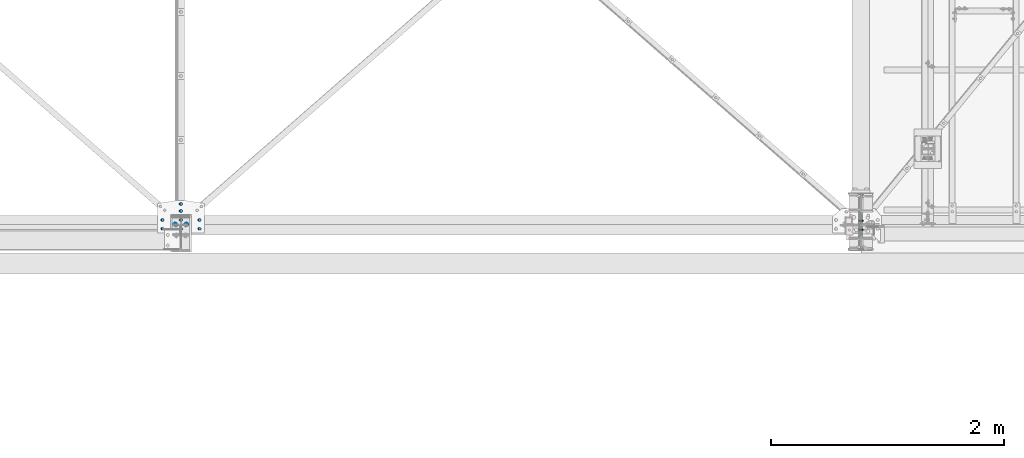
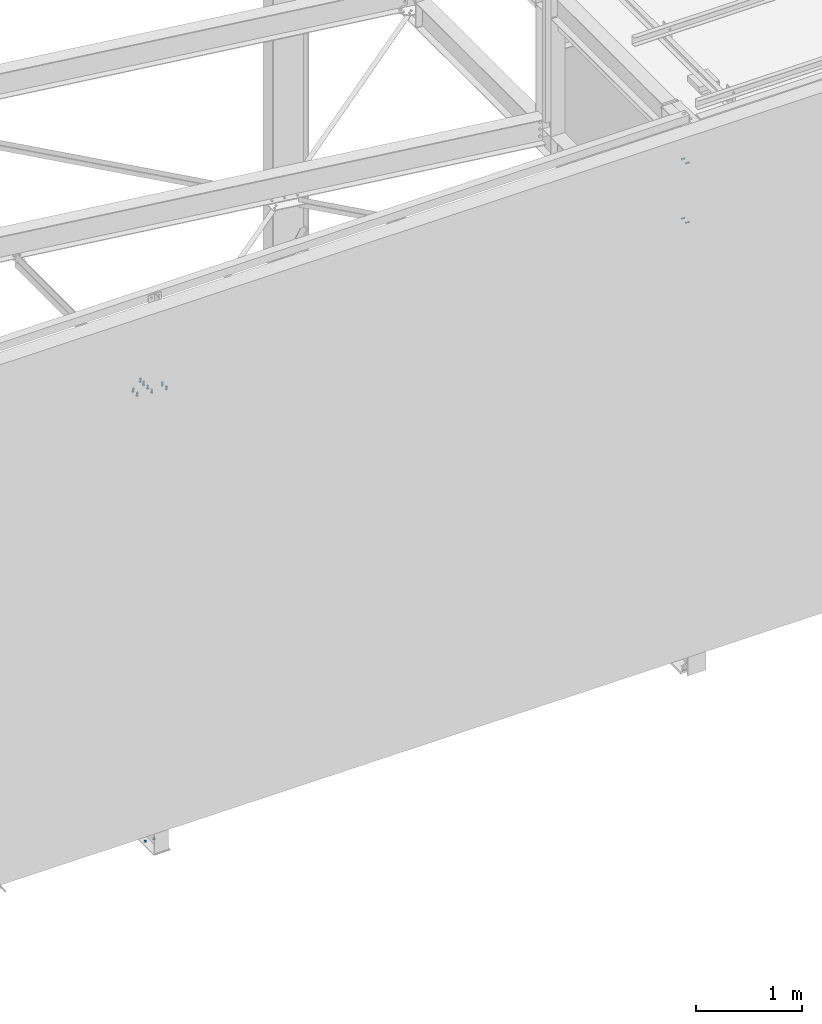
# One storey, part 298 of 3134: 5 mechanical fasteners, 4 elements without a shape of their own.
"""IFC2X3 building model written with IfcOpenShell, lengths in millimetres."""

from ifc_helpers import new_model, si_unit, frame, origin_with_axes, place, context, subcontext, project, spatial, faceted_brep, source, transform, mapped, material, type_object, element, aggregate, save


model = new_model("IFC2X3")

# Units and contexts
model_context = context("Model", 3, precision=1e-05, world=origin_with_axes())
body_context = subcontext(model_context, "Body", "Model", "MODEL_VIEW")
ifc_project = project(units=[si_unit("LENGTHUNIT", "METRE", prefix="MILLI"), si_unit("AREAUNIT", "SQUARE_METRE"), si_unit("VOLUMEUNIT", "CUBIC_METRE"), si_unit("MASSUNIT", "GRAM", prefix="KILO"), si_unit("TIMEUNIT", "SECOND"), si_unit("PLANEANGLEUNIT", "RADIAN"), si_unit("SOLIDANGLEUNIT", "STERADIAN"), si_unit("THERMODYNAMICTEMPERATUREUNIT", "DEGREE_CELSIUS"), si_unit("LUMINOUSINTENSITYUNIT", "LUMEN")], contexts=[model_context])

# Site, building, storey
site_placement = place(None, origin_with_axes())
site = spatial("IfcSite", under=ifc_project, at=site_placement, CompositionType="ELEMENT")
building_placement = place(site_placement, origin_with_axes())
building = spatial("IfcBuilding", under=site, at=building_placement, Name="Undefined", CompositionType="ELEMENT")
storey_placement = place(building_placement, origin_with_axes())
storey = spatial("IfcBuildingStorey", under=building, at=storey_placement, Name="Undefined", CompositionType="ELEMENT", Elevation=0.0)

# Assembly, mechanical fastener
assembly_1_placement = place(storey_placement, origin_with_axes())
assembly_1 = element("IfcElementAssembly", 1, at=assembly_1_placement, inside=storey, AssemblyPlace="NOTDEFINED", PredefinedType="RIGID_FRAME")
ifc_material = material(Name="8.8")
mechanical_fastener_type = type_object("IfcMechanicalFastenerType", Name="Bolt assembly")
shared_shape_1 = source(origin_with_axes(), body_context, "Body", "Brep", [
    faceted_brep([(13.856406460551, -16.9990000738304, 0.0), (6.92820323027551, -16.9990000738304, 12.0), (-6.92820323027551, -16.9990000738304, 12.0), (-13.856406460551, -16.9990000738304, 1.69692038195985e-15), (-6.92820323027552, -16.9990000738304, -12.0), (6.9282032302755, -16.9990000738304, -12.0), (6.9282032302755, -6.99900007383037, -12.0), (-6.92820323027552, -6.99900007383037, -12.0), (-13.856406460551, -6.99900007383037, 1.69692038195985e-15), (-6.92820323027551, -6.99900007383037, 12.0), (6.92820323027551, -6.99900007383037, 12.0), (13.856406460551, -6.99900007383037, 0.0), (8.0, -6.99900007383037, 0.0), (6.92820323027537, -6.99900007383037, 4.00000000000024), (3.99999999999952, -6.99900007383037, 6.92820323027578), (-8.29068785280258e-13, -6.99900007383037, 8.0), (-4.00000000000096, -6.99900007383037, 6.92820323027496), (-6.9282032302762, -6.99900007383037, 3.99999999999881), (-8.0, -6.99900007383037, -1.65813757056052e-12), (-6.92820323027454, -6.99900007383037, -4.00000000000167), (-3.99999999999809, -6.99900007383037, -6.92820323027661), (2.47832457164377e-12, -6.99900007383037, -8.0), (4.00000000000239, -6.99900007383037, -6.92820323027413), (6.92820323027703, -6.99900007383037, -3.99999999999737), (6.92820323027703, 33.0009999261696, -3.99999999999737), (4.00000000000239, 33.0009999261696, -6.92820323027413), (2.47832457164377e-12, 33.0009999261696, -8.0), (-3.99999999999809, 33.0009999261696, -6.92820323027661), (-6.92820323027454, 33.0009999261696, -4.00000000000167), (-8.0, 33.0009999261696, -1.65813757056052e-12), (-6.9282032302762, 33.0009999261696, 3.99999999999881), (-4.00000000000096, 33.0009999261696, 6.92820323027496), (-8.29068785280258e-13, 33.0009999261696, 8.0), (3.99999999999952, 33.0009999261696, 6.92820323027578), (6.92820323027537, 33.0009999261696, 4.00000000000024), (8.0, 33.0009999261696, 0.0), (13.856406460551, 14.9990000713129, 0.0), (6.92820323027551, 14.9990000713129, 12.0), (-6.92820323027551, 14.9990000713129, 12.0), (-13.856406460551, 14.9990000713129, 1.69692038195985e-15), (-6.92820323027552, 14.9990000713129, -12.0), (6.9282032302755, 14.9990000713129, -12.0), (6.9282032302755, 27.9990000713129, -12.0), (-6.92820323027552, 27.9990000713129, -12.0), (-13.856406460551, 27.9990000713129, 1.69692038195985e-15), (-6.92820323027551, 27.9990000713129, 12.0), (6.92820323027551, 27.9990000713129, 12.0), (13.856406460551, 27.9990000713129, 0.0)], [[[0, 1, 2, 3, 4, 5]], [[6, 7, 8, 9, 10, 11]], [[0, 11, 10, 1]], [[1, 10, 9, 2]], [[2, 9, 8, 3]], [[3, 8, 7, 4]], [[4, 7, 6, 5]], [[5, 6, 11, 0]], [[12, 13, 14, 15, 16, 17, 18, 19, 20, 21, 22, 23]], [[24, 25, 26, 27, 28, 29, 30, 31, 32, 33, 34, 35]], [[12, 35, 34, 13]], [[13, 34, 33, 14]], [[14, 33, 32, 15]], [[15, 32, 31, 16]], [[16, 31, 30, 17]], [[17, 30, 29, 18]], [[18, 29, 28, 19]], [[19, 28, 27, 20]], [[20, 27, 26, 21]], [[21, 26, 25, 22]], [[22, 25, 24, 23]], [[23, 24, 35, 12]], [[36, 37, 38, 39, 40, 41]], [[42, 43, 44, 45, 46, 47]], [[36, 47, 46, 37]], [[37, 46, 45, 38]], [[38, 45, 44, 39]], [[39, 44, 43, 40]], [[40, 43, 42, 41]], [[41, 42, 47, 36]]]),
    faceted_brep([(9.0, -3.46568413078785e-07, 0.0), (7.79422863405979, -3.46568413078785e-07, 4.50000000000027), (4.49999999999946, -3.46568413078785e-07, 7.79422863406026), (-9.3270238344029e-13, -3.46568413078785e-07, 9.0), (-4.50000000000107, -3.46568413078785e-07, 7.79422863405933), (-7.79422863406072, -3.46568413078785e-07, 4.49999999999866), (-9.0, -3.46568413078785e-07, -1.86540476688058e-12), (-7.79422863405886, -3.46568413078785e-07, -4.50000000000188), (-4.49999999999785, -3.46568413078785e-07, -7.79422863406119), (2.78811514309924e-12, -3.46568413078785e-07, -9.0), (4.50000000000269, -3.46568413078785e-07, -7.7942286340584), (7.79422863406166, -3.46568413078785e-07, -4.49999999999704), (7.79422863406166, 8.00000000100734, -4.49999999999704), (4.50000000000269, 8.00000000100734, -7.7942286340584), (2.78811514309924e-12, 8.00000000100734, -9.0), (-4.49999999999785, 8.00000000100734, -7.79422863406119), (-7.79422863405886, 8.00000000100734, -4.50000000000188), (-9.0, 8.00000000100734, -1.86540476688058e-12), (-7.79422863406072, 8.00000000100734, 4.49999999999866), (-4.50000000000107, 8.00000000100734, 7.79422863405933), (-9.3270238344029e-13, 8.00000000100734, 9.0), (4.49999999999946, 8.00000000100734, 7.79422863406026), (7.79422863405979, 8.00000000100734, 4.50000000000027), (9.0, 8.00000000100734, 0.0), (9.0, -6.89900007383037, 0.0), (7.79422863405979, -6.89900007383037, 4.50000000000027), (4.49999999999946, -6.89900007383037, 7.79422863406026), (-9.3270238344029e-13, -6.89900007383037, 9.0), (-4.50000000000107, -6.89900007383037, 7.79422863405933), (-7.79422863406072, -6.89900007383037, 4.49999999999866), (-9.0, -6.89900007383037, -1.86540476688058e-12), (-7.79422863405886, -6.89900007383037, -4.50000000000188), (-4.49999999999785, -6.89900007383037, -7.79422863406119), (2.78811514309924e-12, -6.89900007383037, -9.0), (4.50000000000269, -6.89900007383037, -7.7942286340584), (7.79422863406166, -6.89900007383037, -4.49999999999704), (7.79422863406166, 0.100999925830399, -4.49999999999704), (4.50000000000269, 0.100999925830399, -7.7942286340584), (2.78811514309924e-12, 0.100999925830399, -9.0), (-4.49999999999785, 0.100999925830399, -7.79422863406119), (-7.79422863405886, 0.100999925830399, -4.50000000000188), (-9.0, 0.100999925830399, -1.86540476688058e-12), (-7.79422863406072, 0.100999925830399, 4.49999999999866), (-4.50000000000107, 0.100999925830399, 7.79422863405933), (-9.3270238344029e-13, 0.100999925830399, 9.0), (4.49999999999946, 0.100999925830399, 7.79422863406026), (7.79422863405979, 0.100999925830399, 4.50000000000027), (9.0, 0.100999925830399, 0.0), (9.0, 7.89900007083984, 0.0), (7.79422863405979, 7.89900007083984, 4.50000000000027), (4.49999999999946, 7.89900007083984, 7.79422863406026), (-9.3270238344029e-13, 7.89900007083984, 9.0), (-4.50000000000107, 7.89900007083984, 7.79422863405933), (-7.79422863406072, 7.89900007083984, 4.49999999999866), (-9.0, 7.89900007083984, -1.86540476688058e-12), (-7.79422863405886, 7.89900007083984, -4.50000000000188), (-4.49999999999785, 7.89900007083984, -7.79422863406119), (2.78811514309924e-12, 7.89900007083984, -9.0), (4.50000000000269, 7.89900007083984, -7.7942286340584), (7.79422863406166, 7.89900007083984, -4.49999999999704), (7.79422863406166, 14.9990000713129, -4.49999999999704), (4.50000000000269, 14.9990000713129, -7.7942286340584), (2.78811514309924e-12, 14.9990000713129, -9.0), (-4.49999999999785, 14.9990000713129, -7.79422863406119), (-7.79422863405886, 14.9990000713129, -4.50000000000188), (-9.0, 14.9990000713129, -1.86540476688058e-12), (-7.79422863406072, 14.9990000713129, 4.49999999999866), (-4.50000000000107, 14.9990000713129, 7.79422863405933), (-9.3270238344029e-13, 14.9990000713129, 9.0), (4.49999999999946, 14.9990000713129, 7.79422863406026), (7.79422863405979, 14.9990000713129, 4.50000000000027), (9.0, 14.9990000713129, 0.0)], [[[0, 1, 2, 3, 4, 5, 6, 7, 8, 9, 10, 11]], [[12, 13, 14, 15, 16, 17, 18, 19, 20, 21, 22, 23]], [[0, 23, 22, 1]], [[1, 22, 21, 2]], [[2, 21, 20, 3]], [[3, 20, 19, 4]], [[4, 19, 18, 5]], [[5, 18, 17, 6]], [[6, 17, 16, 7]], [[7, 16, 15, 8]], [[8, 15, 14, 9]], [[9, 14, 13, 10]], [[10, 13, 12, 11]], [[11, 12, 23, 0]], [[24, 25, 26, 27, 28, 29, 30, 31, 32, 33, 34, 35]], [[36, 37, 38, 39, 40, 41, 42, 43, 44, 45, 46, 47]], [[24, 47, 46, 25]], [[25, 46, 45, 26]], [[26, 45, 44, 27]], [[27, 44, 43, 28]], [[28, 43, 42, 29]], [[29, 42, 41, 30]], [[30, 41, 40, 31]], [[31, 40, 39, 32]], [[32, 39, 38, 33]], [[33, 38, 37, 34]], [[34, 37, 36, 35]], [[35, 36, 47, 24]], [[48, 49, 50, 51, 52, 53, 54, 55, 56, 57, 58, 59]], [[60, 61, 62, 63, 64, 65, 66, 67, 68, 69, 70, 71]], [[48, 71, 70, 49]], [[49, 70, 69, 50]], [[50, 69, 68, 51]], [[51, 68, 67, 52]], [[52, 67, 66, 53]], [[53, 66, 65, 54]], [[54, 65, 64, 55]], [[55, 64, 63, 56]], [[56, 63, 62, 57]], [[57, 62, 61, 58]], [[58, 61, 60, 59]], [[59, 60, 71, 48]]]),
])
mechanical_fastener_1_placement = place(assembly_1_placement, frame((61712.9827951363, 115.000000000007, 4806.73385378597), z_axis=(-0.992623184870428, 0.0, 0.121240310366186), x_axis=(0.0, 1.0, 0.0)))
mechanical_fastener_1 = element("IfcMechanicalFastener", 2, at=mechanical_fastener_1_placement, type_object=mechanical_fastener_type, material=ifc_material, Name="Bolt assembly", NominalDiameter=16.0, NominalLength=40.0, context=body_context, shape_type="MappedRepresentation", body=[
    mapped(shared_shape_1, transform((0.0, 0.0, 0.0))),
    mapped(shared_shape_1, transform((59.9999999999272, 0.0, 5.40239852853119e-10))),
])
aggregate(assembly_1, [mechanical_fastener_1])

assembly_2_placement = place(storey_placement, origin_with_axes())
assembly_2 = element("IfcElementAssembly", 3, at=assembly_2_placement, inside=storey, Name="300", AssemblyPlace="NOTDEFINED", PredefinedType="RIGID_FRAME")
shared_shape_2 = source(origin_with_axes(), body_context, "Body", "Brep", [
    faceted_brep([(13.856406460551, -19.199990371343, 0.0), (6.92820323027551, -19.199990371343, 12.0), (-6.92820323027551, -19.199990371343, 12.0), (-13.856406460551, -19.199990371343, 1.69692038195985e-15), (-6.92820323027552, -19.199990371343, -12.0), (6.9282032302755, -19.199990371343, -12.0), (6.9282032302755, -9.19999037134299, -12.0), (-6.92820323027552, -9.19999037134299, -12.0), (-13.856406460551, -9.19999037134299, 1.69692038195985e-15), (-6.92820323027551, -9.19999037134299, 12.0), (6.92820323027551, -9.19999037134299, 12.0), (13.856406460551, -9.19999037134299, 0.0), (8.0, -9.19999037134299, 0.0), (6.92820323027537, -9.19999037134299, 4.00000000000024), (3.99999999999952, -9.19999037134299, 6.92820323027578), (-8.29068785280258e-13, -9.19999037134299, 8.0), (-4.00000000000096, -9.19999037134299, 6.92820323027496), (-6.9282032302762, -9.19999037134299, 3.99999999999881), (-8.0, -9.19999037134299, -1.65813757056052e-12), (-6.92820323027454, -9.19999037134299, -4.00000000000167), (-3.99999999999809, -9.19999037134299, -6.92820323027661), (2.47832457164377e-12, -9.19999037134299, -8.0), (4.00000000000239, -9.19999037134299, -6.92820323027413), (6.92820323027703, -9.19999037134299, -3.99999999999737), (6.92820323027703, 25.800009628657, -3.99999999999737), (4.00000000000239, 25.800009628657, -6.92820323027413), (2.47832457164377e-12, 25.800009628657, -8.0), (-3.99999999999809, 25.800009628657, -6.92820323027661), (-6.92820323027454, 25.800009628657, -4.00000000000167), (-8.0, 25.800009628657, -1.65813757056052e-12), (-6.9282032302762, 25.800009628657, 3.99999999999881), (-4.00000000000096, 25.800009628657, 6.92820323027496), (-8.29068785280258e-13, 25.800009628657, 8.0), (3.99999999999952, 25.800009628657, 6.92820323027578), (6.92820323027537, 25.800009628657, 4.00000000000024), (8.0, 25.800009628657, 0.0), (13.856406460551, 8.00000637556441, 0.0), (6.92820323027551, 8.00000637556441, 12.0), (-6.92820323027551, 8.00000637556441, 12.0), (-13.856406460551, 8.00000637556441, 1.69692038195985e-15), (-6.92820323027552, 8.00000637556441, -12.0), (6.9282032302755, 8.00000637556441, -12.0), (6.9282032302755, 21.0000063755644, -12.0), (-6.92820323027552, 21.0000063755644, -12.0), (-13.856406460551, 21.0000063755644, 1.69692038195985e-15), (-6.92820323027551, 21.0000063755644, 12.0), (6.92820323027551, 21.0000063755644, 12.0), (13.856406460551, 21.0000063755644, 0.0)], [[[0, 1, 2, 3, 4, 5]], [[6, 7, 8, 9, 10, 11]], [[0, 11, 10, 1]], [[1, 10, 9, 2]], [[2, 9, 8, 3]], [[3, 8, 7, 4]], [[4, 7, 6, 5]], [[5, 6, 11, 0]], [[12, 13, 14, 15, 16, 17, 18, 19, 20, 21, 22, 23]], [[24, 25, 26, 27, 28, 29, 30, 31, 32, 33, 34, 35]], [[12, 35, 34, 13]], [[13, 34, 33, 14]], [[14, 33, 32, 15]], [[15, 32, 31, 16]], [[16, 31, 30, 17]], [[17, 30, 29, 18]], [[18, 29, 28, 19]], [[19, 28, 27, 20]], [[20, 27, 26, 21]], [[21, 26, 25, 22]], [[22, 25, 24, 23]], [[23, 24, 35, 12]], [[36, 37, 38, 39, 40, 41]], [[42, 43, 44, 45, 46, 47]], [[36, 47, 46, 37]], [[37, 46, 45, 38]], [[38, 45, 44, 39]], [[39, 44, 43, 40]], [[40, 43, 42, 41]], [[41, 42, 47, 36]]]),
    faceted_brep([(9.0, -0.1, 0.0), (7.79422863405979, -0.1, 4.50000000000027), (4.49999999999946, -0.1, 7.79422863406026), (-9.3270238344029e-13, -0.1, 9.0), (-4.50000000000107, -0.1, 7.79422863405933), (-7.79422863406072, -0.1, 4.49999999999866), (-9.0, -0.1, -1.86540476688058e-12), (-7.79422863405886, -0.1, -4.50000000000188), (-4.49999999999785, -0.1, -7.79422863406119), (2.78811514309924e-12, -0.1, -9.0), (4.50000000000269, -0.1, -7.7942286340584), (7.79422863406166, -0.1, -4.49999999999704), (7.79422863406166, 8.00000000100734, -4.49999999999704), (4.50000000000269, 8.00000000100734, -7.7942286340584), (2.78811514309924e-12, 8.00000000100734, -9.0), (-4.49999999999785, 8.00000000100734, -7.79422863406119), (-7.79422863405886, 8.00000000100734, -4.50000000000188), (-9.0, 8.00000000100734, -1.86540476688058e-12), (-7.79422863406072, 8.00000000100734, 4.49999999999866), (-4.50000000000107, 8.00000000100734, 7.79422863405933), (-9.3270238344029e-13, 8.00000000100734, 9.0), (4.49999999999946, 8.00000000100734, 7.79422863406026), (7.79422863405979, 8.00000000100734, 4.50000000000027), (9.0, 8.00000000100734, 0.0), (9.0, -9.09999037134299, 0.0), (7.79422863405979, -9.09999037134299, 4.50000000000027), (4.49999999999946, -9.09999037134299, 7.79422863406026), (-9.3270238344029e-13, -9.09999037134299, 9.0), (-4.50000000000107, -9.09999037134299, 7.79422863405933), (-7.79422863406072, -9.09999037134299, 4.49999999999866), (-9.0, -9.09999037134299, -1.86540476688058e-12), (-7.79422863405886, -9.09999037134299, -4.50000000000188), (-4.49999999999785, -9.09999037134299, -7.79422863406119), (2.78811514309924e-12, -9.09999037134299, -9.0), (4.50000000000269, -9.09999037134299, -7.7942286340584), (7.79422863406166, -9.09999037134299, -4.49999999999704), (7.79422863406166, 0.100000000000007, -4.49999999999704), (4.50000000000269, 0.100000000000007, -7.7942286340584), (2.78811514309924e-12, 0.100000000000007, -9.0), (-4.49999999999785, 0.100000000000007, -7.79422863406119), (-7.79422863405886, 0.100000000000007, -4.50000000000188), (-9.0, 0.100000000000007, -1.86540476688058e-12), (-7.79422863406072, 0.100000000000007, 4.49999999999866), (-4.50000000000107, 0.100000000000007, 7.79422863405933), (-9.3270238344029e-13, 0.100000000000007, 9.0), (4.49999999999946, 0.100000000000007, 7.79422863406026), (7.79422863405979, 0.100000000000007, 4.50000000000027), (9.0, 0.100000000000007, 0.0)], [[[0, 1, 2, 3, 4, 5, 6, 7, 8, 9, 10, 11]], [[12, 13, 14, 15, 16, 17, 18, 19, 20, 21, 22, 23]], [[0, 23, 22, 1]], [[1, 22, 21, 2]], [[2, 21, 20, 3]], [[3, 20, 19, 4]], [[4, 19, 18, 5]], [[5, 18, 17, 6]], [[6, 17, 16, 7]], [[7, 16, 15, 8]], [[8, 15, 14, 9]], [[9, 14, 13, 10]], [[10, 13, 12, 11]], [[11, 12, 23, 0]], [[24, 25, 26, 27, 28, 29, 30, 31, 32, 33, 34, 35]], [[36, 37, 38, 39, 40, 41, 42, 43, 44, 45, 46, 47]], [[24, 47, 46, 25]], [[25, 46, 45, 26]], [[26, 45, 44, 27]], [[27, 44, 43, 28]], [[28, 43, 42, 29]], [[29, 42, 41, 30]], [[30, 41, 40, 31]], [[31, 40, 39, 32]], [[32, 39, 38, 33]], [[33, 38, 37, 34]], [[34, 37, 36, 35]], [[35, 36, 47, 24]]]),
])
mechanical_fastener_2_placement = place(assembly_2_placement, frame((61871.8025059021, 0.0, 4787.3354135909), z_axis=(0.0, -1.0, 0.0), x_axis=(-0.992623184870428, 0.0, 0.121240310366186)))
mechanical_fastener_2 = element("IfcMechanicalFastener", 4, at=mechanical_fastener_2_placement, type_object=mechanical_fastener_type, material=ifc_material, Name="Bolt assembly", NominalDiameter=16.0, NominalLength=35.0, context=body_context, shape_type="MappedRepresentation", body=[
    mapped(shared_shape_2, transform((0.0, 0.0, -38.0))),
    mapped(shared_shape_2, transform((159.99999999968, -2.71938915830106e-10, -38.0))),
    mapped(shared_shape_2, transform((320.000000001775, 1.33877620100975e-09, -38.0))),
    mapped(shared_shape_2, transform((0.0, 0.0, 38.0))),
    mapped(shared_shape_2, transform((159.99999999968, -2.71938915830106e-10, 38.0))),
    mapped(shared_shape_2, transform((320.000000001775, 1.33877620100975e-09, 38.0))),
])
aggregate(assembly_2, [mechanical_fastener_2])

# Assembly, mechanical fasteners
assembly_3_placement = place(storey_placement, origin_with_axes())
assembly_3 = element("IfcElementAssembly", 5, at=assembly_3_placement, inside=storey, AssemblyPlace="NOTDEFINED", PredefinedType="RIGID_FRAME")
shared_shape_3 = source(origin_with_axes(), body_context, "Body", "Brep", [
    faceted_brep([(10.9696551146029, -16.0, 0.0), (5.48482755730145, -16.0, 9.5), (-5.48482755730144, -16.0, 9.5), (-10.9696551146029, -16.0, 1.34339530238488e-15), (-5.48482755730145, -16.0, -9.5), (5.48482755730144, -16.0, -9.50000000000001), (5.48482755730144, -8.0, -9.50000000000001), (-5.48482755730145, -8.0, -9.5), (-10.9696551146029, -8.0, 1.34339530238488e-15), (-5.48482755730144, -8.0, 9.5), (5.48482755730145, -8.0, 9.5), (10.9696551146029, -8.0, 0.0), (6.0, -8.0, 0.0), (5.19615242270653, -8.0, 3.00000000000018), (2.99999999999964, -8.0, 5.19615242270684), (-6.21801588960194e-13, -8.0, 6.0), (-3.00000000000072, -8.0, 5.19615242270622), (-5.19615242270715, -8.0, 2.9999999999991), (-6.0, -8.0, -1.24360317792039e-12), (-5.19615242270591, -8.0, -3.00000000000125), (-2.99999999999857, -8.0, -5.19615242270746), (1.85874342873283e-12, -8.0, -6.0), (3.00000000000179, -8.0, -5.1961524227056), (5.19615242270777, -8.0, -2.99999999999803), (5.19615242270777, 27.0, -2.99999999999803), (3.00000000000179, 27.0, -5.1961524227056), (1.85874342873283e-12, 27.0, -6.0), (-2.99999999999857, 27.0, -5.19615242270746), (-5.19615242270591, 27.0, -3.00000000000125), (-6.0, 27.0, -1.24360317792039e-12), (-5.19615242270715, 27.0, 2.9999999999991), (-3.00000000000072, 27.0, 5.19615242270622), (-6.21801588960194e-13, 27.0, 6.0), (2.99999999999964, 27.0, 5.19615242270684), (5.19615242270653, 27.0, 3.00000000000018), (6.0, 27.0, 0.0), (10.9696551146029, 10.1999998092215, 0.0), (5.48482755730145, 10.1999998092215, 9.5), (-5.48482755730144, 10.1999998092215, 9.5), (-10.9696551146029, 10.1999998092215, 1.34339530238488e-15), (-5.48482755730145, 10.1999998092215, -9.5), (5.48482755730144, 10.1999998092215, -9.50000000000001), (5.48482755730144, 20.1999998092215, -9.50000000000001), (-5.48482755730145, 20.1999998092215, -9.5), (-10.9696551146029, 20.1999998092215, 1.34339530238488e-15), (-5.48482755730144, 20.1999998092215, 9.5), (5.48482755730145, 20.1999998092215, 9.5), (10.9696551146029, 20.1999998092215, 0.0)], [[[0, 1, 2, 3, 4, 5]], [[6, 7, 8, 9, 10, 11]], [[0, 11, 10, 1]], [[1, 10, 9, 2]], [[2, 9, 8, 3]], [[3, 8, 7, 4]], [[4, 7, 6, 5]], [[5, 6, 11, 0]], [[12, 13, 14, 15, 16, 17, 18, 19, 20, 21, 22, 23]], [[24, 25, 26, 27, 28, 29, 30, 31, 32, 33, 34, 35]], [[12, 35, 34, 13]], [[13, 34, 33, 14]], [[14, 33, 32, 15]], [[15, 32, 31, 16]], [[16, 31, 30, 17]], [[17, 30, 29, 18]], [[18, 29, 28, 19]], [[19, 28, 27, 20]], [[20, 27, 26, 21]], [[21, 26, 25, 22]], [[22, 25, 24, 23]], [[23, 24, 35, 12]], [[36, 37, 38, 39, 40, 41]], [[42, 43, 44, 45, 46, 47]], [[36, 47, 46, 37]], [[37, 46, 45, 38]], [[38, 45, 44, 39]], [[39, 44, 43, 40]], [[40, 43, 42, 41]], [[41, 42, 47, 36]]]),
    faceted_brep([(7.0, -0.1, 0.0), (6.06217782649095, -0.1, 3.50000000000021), (3.49999999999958, -0.1, 6.06217782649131), (-7.25435187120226e-13, -0.1, 7.0), (-3.50000000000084, -0.1, 6.06217782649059), (-6.06217782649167, -0.1, 3.49999999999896), (-7.0, -0.1, -1.45087037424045e-12), (-6.06217782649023, -0.1, -3.50000000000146), (-3.49999999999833, -0.1, -6.06217782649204), (2.1685340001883e-12, -0.1, -7.0), (3.50000000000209, -0.1, -6.06217782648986), (6.0621778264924, -0.1, -3.4999999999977), (6.0621778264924, 10.1999998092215, -3.4999999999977), (3.50000000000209, 10.1999998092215, -6.06217782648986), (2.1685340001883e-12, 10.1999998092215, -7.0), (-3.49999999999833, 10.1999998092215, -6.06217782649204), (-6.06217782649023, 10.1999998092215, -3.50000000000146), (-7.0, 10.1999998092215, -1.45087037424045e-12), (-6.06217782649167, 10.1999998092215, 3.49999999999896), (-3.50000000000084, 10.1999998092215, 6.06217782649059), (-7.25435187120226e-13, 10.1999998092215, 7.0), (3.49999999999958, 10.1999998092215, 6.06217782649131), (6.06217782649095, 10.1999998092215, 3.50000000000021), (7.0, 10.1999998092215, 0.0), (7.0, -7.9, 0.0), (6.06217782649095, -7.9, 3.50000000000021), (3.49999999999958, -7.9, 6.06217782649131), (-7.25435187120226e-13, -7.9, 7.0), (-3.50000000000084, -7.9, 6.06217782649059), (-6.06217782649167, -7.9, 3.49999999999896), (-7.0, -7.9, -1.45087037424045e-12), (-6.06217782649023, -7.9, -3.50000000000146), (-3.49999999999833, -7.9, -6.06217782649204), (2.1685340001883e-12, -7.9, -7.0), (3.50000000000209, -7.9, -6.06217782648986), (6.0621778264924, -7.9, -3.4999999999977), (6.0621778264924, 0.0999999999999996, -3.4999999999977), (3.50000000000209, 0.0999999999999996, -6.06217782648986), (2.1685340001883e-12, 0.0999999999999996, -7.0), (-3.49999999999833, 0.0999999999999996, -6.06217782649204), (-6.06217782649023, 0.0999999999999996, -3.50000000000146), (-7.0, 0.0999999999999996, -1.45087037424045e-12), (-6.06217782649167, 0.0999999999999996, 3.49999999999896), (-3.50000000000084, 0.0999999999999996, 6.06217782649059), (-7.25435187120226e-13, 0.0999999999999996, 7.0), (3.49999999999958, 0.0999999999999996, 6.06217782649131), (6.06217782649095, 0.0999999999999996, 3.50000000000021), (7.0, 0.0999999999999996, 0.0)], [[[0, 1, 2, 3, 4, 5, 6, 7, 8, 9, 10, 11]], [[12, 13, 14, 15, 16, 17, 18, 19, 20, 21, 22, 23]], [[0, 23, 22, 1]], [[1, 22, 21, 2]], [[2, 21, 20, 3]], [[3, 20, 19, 4]], [[4, 19, 18, 5]], [[5, 18, 17, 6]], [[6, 17, 16, 7]], [[7, 16, 15, 8]], [[8, 15, 14, 9]], [[9, 14, 13, 10]], [[10, 13, 12, 11]], [[11, 12, 23, 0]], [[24, 25, 26, 27, 28, 29, 30, 31, 32, 33, 34, 35]], [[36, 37, 38, 39, 40, 41, 42, 43, 44, 45, 46, 47]], [[24, 47, 46, 25]], [[25, 46, 45, 26]], [[26, 45, 44, 27]], [[27, 44, 43, 28]], [[28, 43, 42, 29]], [[29, 42, 41, 30]], [[30, 41, 40, 31]], [[31, 40, 39, 32]], [[32, 39, 38, 33]], [[33, 38, 37, 34]], [[34, 37, 36, 35]], [[35, 36, 47, 24]]]),
])
mechanical_fastener_3_placement = place(assembly_3_placement, frame((67544.9000000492, 33.0001130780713, 5397.09497690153), z_axis=(0.0, 0.0, 1.0), x_axis=(0.0, -1.0, 0.0)))
mechanical_fastener_3 = element("IfcMechanicalFastener", 6, at=mechanical_fastener_3_placement, type_object=mechanical_fastener_type, material=ifc_material, Name="Bolt assembly", NominalDiameter=12.0, NominalLength=35.0, context=body_context, shape_type="MappedRepresentation", body=[
    mapped(shared_shape_3, transform((0.0, 0.0, 0.0))),
    mapped(shared_shape_3, transform((80.0, 0.0, 0.0))),
])
mechanical_fastener_4_placement = place(assembly_3_placement, frame((67544.9000000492, 33.0001130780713, 4712.09497690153), z_axis=(0.0, 0.0, 1.0), x_axis=(0.0, -1.0, 0.0)))
mechanical_fastener_4 = element("IfcMechanicalFastener", 7, at=mechanical_fastener_4_placement, type_object=mechanical_fastener_type, material=ifc_material, Name="Bolt assembly", NominalDiameter=12.0, NominalLength=35.0, context=body_context, shape_type="MappedRepresentation", body=[
    mapped(shared_shape_3, transform((0.0, 0.0, 0.0))),
    mapped(shared_shape_3, transform((80.0, 0.0, 0.0))),
])
aggregate(assembly_3, [mechanical_fastener_3, mechanical_fastener_4])

# Assembly, mechanical fastener
assembly_4_placement = place(storey_placement, origin_with_axes())
assembly_4 = element("IfcElementAssembly", 8, at=assembly_4_placement, inside=storey, Name="300", AssemblyPlace="NOTDEFINED", PredefinedType="RIGID_FRAME")
shared_shape_4 = source(origin_with_axes(), body_context, "Body", "Brep", [
    faceted_brep([(13.0, -25.000000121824, 0.0), (11.2583302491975, -25.000000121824, 6.50000000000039), (6.49999999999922, -25.000000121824, 11.2583302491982), (-1.34723677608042e-12, -25.000000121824, 13.0), (-6.50000000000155, -25.000000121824, 11.2583302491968), (-11.2583302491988, -25.000000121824, 6.49999999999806), (-13.0, -25.000000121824, -2.69447355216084e-12), (-11.2583302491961, -25.000000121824, -6.50000000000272), (-6.4999999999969, -25.000000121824, -11.2583302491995), (4.02727742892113e-12, -25.000000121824, -13.0), (6.50000000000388, -25.000000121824, -11.2583302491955), (11.2583302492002, -25.000000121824, -6.49999999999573), (11.2583302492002, -12.900000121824, -6.49999999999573), (6.50000000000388, -12.900000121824, -11.2583302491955), (4.02727742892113e-12, -12.900000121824, -13.0), (-6.4999999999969, -12.900000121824, -11.2583302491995), (-11.2583302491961, -12.900000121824, -6.50000000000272), (-13.0, -12.900000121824, -2.69447355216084e-12), (-11.2583302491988, -12.900000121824, 6.49999999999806), (-6.50000000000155, -12.900000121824, 11.2583302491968), (-1.34723677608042e-12, -12.900000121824, 13.0), (6.49999999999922, -12.900000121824, 11.2583302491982), (11.2583302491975, -12.900000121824, 6.50000000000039), (13.0, -12.900000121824, 0.0)], [[[0, 1, 2, 3, 4, 5, 6, 7, 8, 9, 10, 11]], [[12, 13, 14, 15, 16, 17, 18, 19, 20, 21, 22, 23]], [[0, 23, 22, 1]], [[1, 22, 21, 2]], [[2, 21, 20, 3]], [[3, 20, 19, 4]], [[4, 19, 18, 5]], [[5, 18, 17, 6]], [[6, 17, 16, 7]], [[7, 16, 15, 8]], [[8, 15, 14, 9]], [[9, 14, 13, 10]], [[10, 13, 12, 11]], [[11, 12, 23, 0]]]),
])
mechanical_fastener_5_placement = place(assembly_4_placement, frame((61712.5000000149, -301.499999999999, -374.999999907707), z_axis=(1.0, 0.0, 0.0), x_axis=(0.0, 1.0, 0.0)))
mechanical_fastener_5 = element("IfcMechanicalFastener", 9, at=mechanical_fastener_5_placement, type_object=mechanical_fastener_type, material=ifc_material, Name="Bolt assembly", NominalDiameter=24.0, NominalLength=12.0, context=body_context, shape_type="MappedRepresentation", body=[
    mapped(shared_shape_4, transform((301.5, 0.0, -48.0))),
    mapped(shared_shape_4, transform((301.5, 0.0, 48.0))),
])
aggregate(assembly_4, [mechanical_fastener_5])

save(model, "model.ifc")
